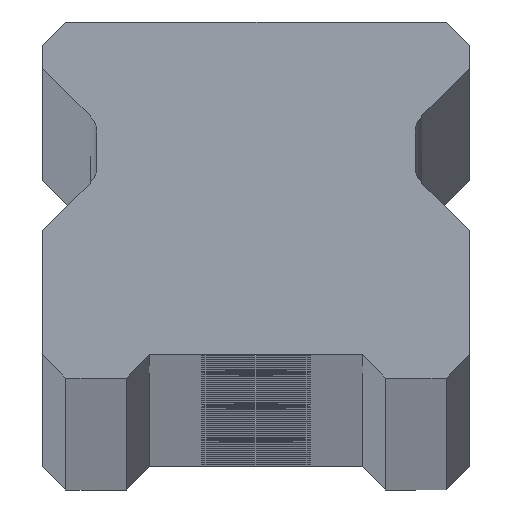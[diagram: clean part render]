
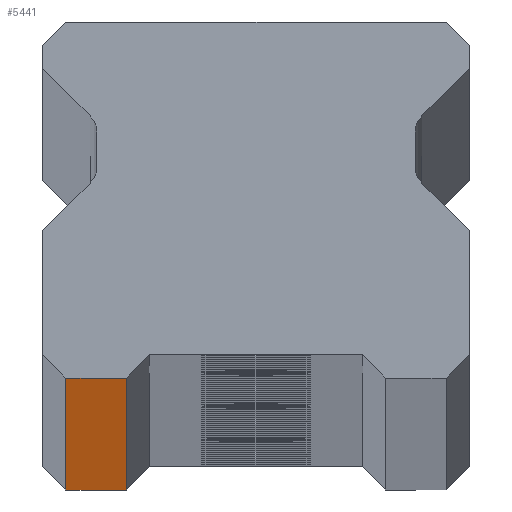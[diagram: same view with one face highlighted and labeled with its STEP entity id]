
A CAD part, top view. The second image highlights one B-rep face of the part: STEP entity #5441.
In plain terms, the highlighted planar face has unit normal (0, -1, 0).
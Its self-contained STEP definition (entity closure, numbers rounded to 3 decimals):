
#130 = ORIENTED_EDGE ( 'NONE', *, *, #3505, .F. ) ;
#705 = LINE ( 'NONE', #2650, #10316 ) ;
#1342 = PLANE ( 'NONE',  #4643 ) ;
#1795 = CARTESIAN_POINT ( 'NONE',  ( -10.25, 0., 1730. ) ) ;
#2009 = DIRECTION ( 'NONE',  ( 1., 0., 0. ) ) ;
#2161 = CARTESIAN_POINT ( 'NONE',  ( -7., 0., -1730. ) ) ;
#2650 = CARTESIAN_POINT ( 'NONE',  ( 11.5, 0., 1730. ) ) ;
#2754 = LINE ( 'NONE', #6700, #4730 ) ;
#3046 = VECTOR ( 'NONE', #9364, 1000. ) ;
#3505 = EDGE_CURVE ( 'NONE', #8737, #6017, #705, .T. ) ;
#4145 = ORIENTED_EDGE ( 'NONE', *, *, #7683, .T. ) ;
#4643 = AXIS2_PLACEMENT_3D ( 'NONE', #6634, #8465, #4938 ) ;
#4730 = VECTOR ( 'NONE', #5664, 1000. ) ;
#4938 = DIRECTION ( 'NONE',  ( -1., 0., 0. ) ) ;
#4983 = ORIENTED_EDGE ( 'NONE', *, *, #10192, .T. ) ;
#5009 = CARTESIAN_POINT ( 'NONE',  ( -10.25, 0., 1730. ) ) ;
#5441 = ADVANCED_FACE ( 'NONE', ( #11168 ), #1342, .F. ) ;
#5484 = VERTEX_POINT ( 'NONE', #2161 ) ;
#5664 = DIRECTION ( 'NONE',  ( 0., 0., 1. ) ) ;
#6017 = VERTEX_POINT ( 'NONE', #10464 ) ;
#6322 = DIRECTION ( 'NONE',  ( 1., 0., 0. ) ) ;
#6634 = CARTESIAN_POINT ( 'NONE',  ( 11.5, 0., 1730. ) ) ;
#6700 = CARTESIAN_POINT ( 'NONE',  ( -7., 0., -1730. ) ) ;
#7251 = EDGE_CURVE ( 'NONE', #8737, #7365, #10857, .T. ) ;
#7348 = CARTESIAN_POINT ( 'NONE',  ( 11.5, 0., -1730. ) ) ;
#7365 = VERTEX_POINT ( 'NONE', #8769 ) ;
#7683 = EDGE_CURVE ( 'NONE', #5484, #6017, #2754, .T. ) ;
#8465 = DIRECTION ( 'NONE',  ( 0., 1., 0. ) ) ;
#8665 = EDGE_LOOP ( 'NONE', ( #4983, #4145, #130, #9727 ) ) ;
#8737 = VERTEX_POINT ( 'NONE', #1795 ) ;
#8769 = CARTESIAN_POINT ( 'NONE',  ( -10.25, 0., -1730. ) ) ;
#9364 = DIRECTION ( 'NONE',  ( 0., 0., -1. ) ) ;
#9552 = LINE ( 'NONE', #7348, #11345 ) ;
#9727 = ORIENTED_EDGE ( 'NONE', *, *, #7251, .T. ) ;
#10192 = EDGE_CURVE ( 'NONE', #7365, #5484, #9552, .T. ) ;
#10316 = VECTOR ( 'NONE', #6322, 1000. ) ;
#10464 = CARTESIAN_POINT ( 'NONE',  ( -7., 0., 1730. ) ) ;
#10857 = LINE ( 'NONE', #5009, #3046 ) ;
#11168 = FACE_OUTER_BOUND ( 'NONE', #8665, .T. ) ;
#11345 = VECTOR ( 'NONE', #2009, 1000. ) ;
